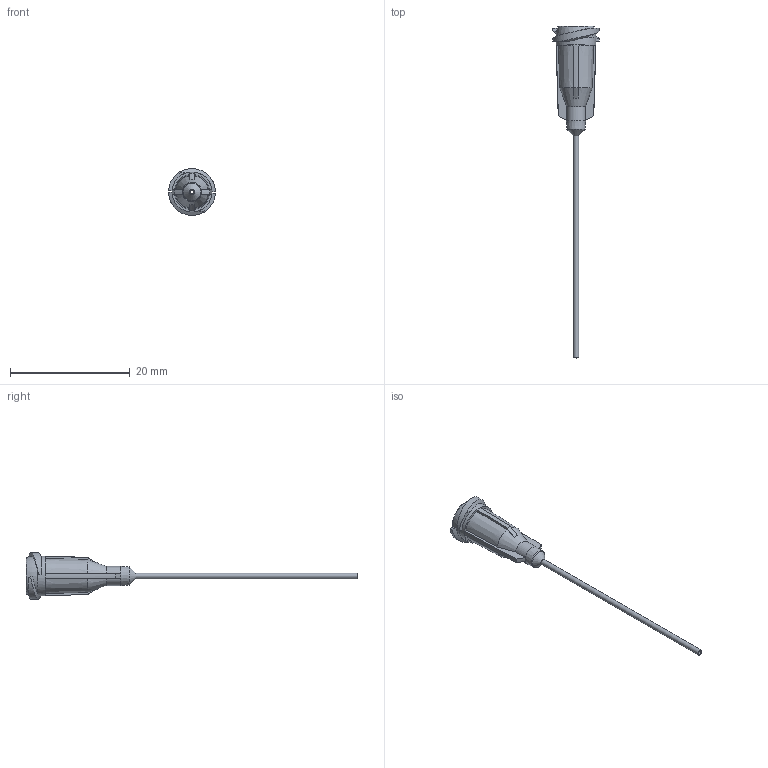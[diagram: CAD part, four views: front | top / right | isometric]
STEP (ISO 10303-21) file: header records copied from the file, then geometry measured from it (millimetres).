
FILE_DESCRIPTION (( 'STEP AP214' ), '1' );
FILE_NAME ('DAV TE 20 15.STEP', '2023-09-29T06:12:13', ( '' ), ( '' ), 'SwSTEP 2.0', 'SolidWorks 2022', '' );
FILE_SCHEMA (( 'AUTOMOTIVE_DESIGN' ));
Length unit declared in the file: millimetre
Products named in the file (1): DAV TE 20 15
Bounding box: 7.82 x 55.47 x 7.82 mm (x, y, z)
Volume: 275.3 mm3; surface area: 717.8 mm2
Topology: 1 solids, 1 shells, 63 faces, 161 edges, 101 vertices
Faces by surface type: plane 23, cone 16, bspline 10, cylinder 7, torus 7
Full cylindrical faces by diameter (mm): 0.64 x1, 0.91 x1, 2.87 x1, 6.655 x1
Entity records: 2066 total; most frequent: CARTESIAN_POINT 796, ORIENTED_EDGE 262, DIRECTION 228, EDGE_CURVE 131, AXIS2_PLACEMENT_3D 99, VERTEX_POINT 89, EDGE_LOOP 80, FACE_OUTER_BOUND 71
